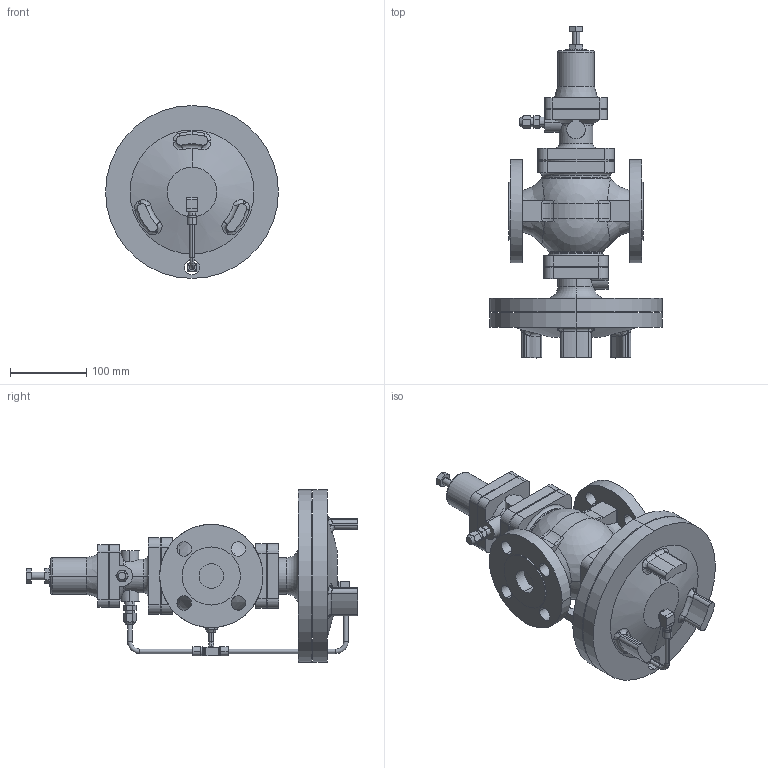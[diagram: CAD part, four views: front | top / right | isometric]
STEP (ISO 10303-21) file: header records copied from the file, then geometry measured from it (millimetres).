
FILE_DESCRIPTION (( 'STEP AP203' ), '1' );
FILE_NAME ('GPR-2000 JIS20K 32A.STEP', '2025-12-05T02:17:27', ( '' ), ( '' ), 'SwSTEP 2.0', 'SolidWorks 2024', '' );
FILE_SCHEMA (( 'CONFIG_CONTROL_DESIGN' ));
Length unit declared in the file: millimetre
Products named in the file (8): Elbow; Joint; GP-2000 Pipe A 32-40A; Tee; GPR-2000 Body Assy EN 32A; GPR-2000 JIS20K 32A; Pipe B 32-40A; Pipe C 32-40A
Assembly tree (9 placements, depth 2):
  GPR-2000 JIS20K 32A
    GPR-2000 Body Assy EN 32A
    Tee
    Pipe B 32-40A
    Joint  x3
    GP-2000 Pipe A 32-40A
    Pipe C 32-40A
    Elbow
Bounding box: 226 x 434 x 226 mm (x, y, z)
Volume: 4110285.1 mm3; surface area: 393644.5 mm2
Topology: 9 solids, 9 shells, 483 faces, 1212 edges, 791 vertices
Faces by surface type: plane 199, cylinder 189, torus 40, cone 27, bspline 24, sphere 4
Entity records: 17290 total; most frequent: CARTESIAN_POINT 5943, DIRECTION 2256, ORIENTED_EDGE 2140, EDGE_CURVE 1070, AXIS2_PLACEMENT_3D 890, VERTEX_POINT 691, EDGE_LOOP 503, LINE 476
